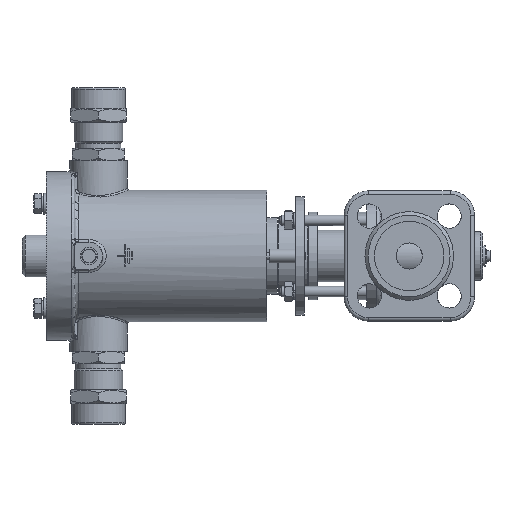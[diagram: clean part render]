
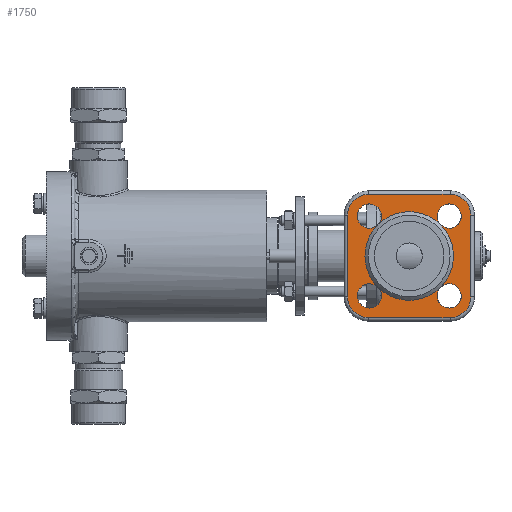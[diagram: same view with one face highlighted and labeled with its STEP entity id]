
A CAD part, left-side view. The second image highlights one B-rep face of the part: STEP entity #1750.
In plain terms, the highlighted planar face has unit normal (-1, 0, 0).
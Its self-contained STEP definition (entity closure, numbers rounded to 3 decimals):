
#1750=ADVANCED_FACE('',(#19510,#19512,#19514,#19516,#19518,#19520),#19522,.T.);
#19510=FACE_BOUND('',#19511,.T.);
#19511=EDGE_LOOP('',(#30343));
#19512=FACE_BOUND('',#19513,.T.);
#19513=EDGE_LOOP('',(#30344));
#19514=FACE_BOUND('',#19515,.T.);
#19515=EDGE_LOOP('',(#30345));
#19516=FACE_BOUND('',#19517,.T.);
#19517=EDGE_LOOP('',(#30346));
#19518=FACE_BOUND('',#19519,.T.);
#19519=EDGE_LOOP('',(#30347));
#19520=FACE_OUTER_BOUND('',#19521,.T.);
#19521=EDGE_LOOP('',(#30348,#30349,#30350,#30351,#30352,#30353,#30354,#30355));
#19522=PLANE('',#19523);
#19523=AXIS2_PLACEMENT_3D('',#19524,#19525,#19526);
#19524=CARTESIAN_POINT('',(-64.,0.,0.));
#19525=DIRECTION('',(-1.,-0.,-0.));
#19526=DIRECTION('',(0.,1.,0.));
#30343=ORIENTED_EDGE('',*,*,#39169,.T.);
#30344=ORIENTED_EDGE('',*,*,#39171,.T.);
#30345=ORIENTED_EDGE('',*,*,#39165,.T.);
#30346=ORIENTED_EDGE('',*,*,#39222,.T.);
#30347=ORIENTED_EDGE('',*,*,#39167,.T.);
#30348=ORIENTED_EDGE('',*,*,#39223,.T.);
#30349=ORIENTED_EDGE('',*,*,#39224,.T.);
#30350=ORIENTED_EDGE('',*,*,#39225,.T.);
#30351=ORIENTED_EDGE('',*,*,#39226,.T.);
#30352=ORIENTED_EDGE('',*,*,#39227,.T.);
#30353=ORIENTED_EDGE('',*,*,#39228,.T.);
#30354=ORIENTED_EDGE('',*,*,#39229,.T.);
#30355=ORIENTED_EDGE('',*,*,#39230,.T.);
#39165=EDGE_CURVE('',#46882,#46882,#46884,.F.);
#39167=EDGE_CURVE('',#46885,#46885,#46887,.F.);
#39169=EDGE_CURVE('',#46888,#46888,#46890,.F.);
#39171=EDGE_CURVE('',#46891,#46891,#46893,.F.);
#39222=EDGE_CURVE('',#46967,#46967,#46968,.T.);
#39223=EDGE_CURVE('',#46969,#46970,#46971,.T.);
#39224=EDGE_CURVE('',#46970,#46972,#46973,.T.);
#39225=EDGE_CURVE('',#46972,#46974,#46975,.T.);
#39226=EDGE_CURVE('',#46974,#46976,#46977,.T.);
#39227=EDGE_CURVE('',#46976,#46978,#46979,.T.);
#39228=EDGE_CURVE('',#46978,#46980,#46981,.T.);
#39229=EDGE_CURVE('',#46980,#46982,#46983,.T.);
#39230=EDGE_CURVE('',#46982,#46969,#46984,.T.);
#46882=VERTEX_POINT('',#73843);
#46884=CIRCLE('',#73847,7.);
#46885=VERTEX_POINT('',#73851);
#46887=CIRCLE('',#73855,7.);
#46888=VERTEX_POINT('',#73859);
#46890=CIRCLE('',#73863,7.);
#46891=VERTEX_POINT('',#73867);
#46893=CIRCLE('',#73871,7.);
#46967=VERTEX_POINT('',#74071);
#46968=CIRCLE('',#74072,25.5);
#46969=VERTEX_POINT('',#74076);
#46970=VERTEX_POINT('',#74077);
#46971=LINE('',#74078,#74079);
#46972=VERTEX_POINT('',#74081);
#46973=CIRCLE('',#74082,12.);
#46974=VERTEX_POINT('',#74086);
#46975=LINE('',#74087,#74088);
#46976=VERTEX_POINT('',#74090);
#46977=CIRCLE('',#74091,12.);
#46978=VERTEX_POINT('',#74095);
#46979=LINE('',#74096,#74097);
#46980=VERTEX_POINT('',#74099);
#46981=CIRCLE('',#74100,12.);
#46982=VERTEX_POINT('',#74104);
#46983=LINE('',#74105,#74106);
#46984=CIRCLE('',#74108,12.);
#73843=CARTESIAN_POINT('',(-64.,-22.981,-29.981));
#73847=AXIS2_PLACEMENT_3D('',#73848,#73849,#73850);
#73848=CARTESIAN_POINT('',(-64.,-22.981,-22.981));
#73849=DIRECTION('',(-1.,-0.,-0.));
#73850=DIRECTION('',(0.,0.,-1.));
#73851=CARTESIAN_POINT('',(-64.,-22.981,15.981));
#73855=AXIS2_PLACEMENT_3D('',#73856,#73857,#73858);
#73856=CARTESIAN_POINT('',(-64.,-22.981,22.981));
#73857=DIRECTION('',(-1.,-0.,-0.));
#73858=DIRECTION('',(0.,0.,-1.));
#73859=CARTESIAN_POINT('',(-64.,22.981,15.981));
#73863=AXIS2_PLACEMENT_3D('',#73864,#73865,#73866);
#73864=CARTESIAN_POINT('',(-64.,22.981,22.981));
#73865=DIRECTION('',(-1.,-0.,-0.));
#73866=DIRECTION('',(0.,0.,-1.));
#73867=CARTESIAN_POINT('',(-64.,22.981,-29.981));
#73871=AXIS2_PLACEMENT_3D('',#73872,#73873,#73874);
#73872=CARTESIAN_POINT('',(-64.,22.981,-22.981));
#73873=DIRECTION('',(-1.,-0.,-0.));
#73874=DIRECTION('',(0.,0.,-1.));
#74071=CARTESIAN_POINT('',(-64.,25.5,0.));
#74072=AXIS2_PLACEMENT_3D('',#74073,#74074,#74075);
#74073=CARTESIAN_POINT('',(-64.,0.,0.));
#74074=DIRECTION('',(1.,0.,0.));
#74075=DIRECTION('',(0.,1.,0.));
#74076=CARTESIAN_POINT('',(-64.,23.5,-35.5));
#74077=CARTESIAN_POINT('',(-64.,-23.5,-35.5));
#74078=CARTESIAN_POINT('',(-64.,23.5,-35.5));
#74079=VECTOR('',#74080,1.);
#74080=DIRECTION('',(0.,-1.,0.));
#74081=CARTESIAN_POINT('',(-64.,-35.5,-23.5));
#74082=AXIS2_PLACEMENT_3D('',#74083,#74084,#74085);
#74083=CARTESIAN_POINT('',(-64.,-23.5,-23.5));
#74084=DIRECTION('',(-1.,0.,-0.));
#74085=DIRECTION('',(0.,0.,-1.));
#74086=CARTESIAN_POINT('',(-64.,-35.5,23.5));
#74087=CARTESIAN_POINT('',(-64.,-35.5,-23.5));
#74088=VECTOR('',#74089,1.);
#74089=DIRECTION('',(0.,0.,1.));
#74090=CARTESIAN_POINT('',(-64.,-23.5,35.5));
#74091=AXIS2_PLACEMENT_3D('',#74092,#74093,#74094);
#74092=CARTESIAN_POINT('',(-64.,-23.5,23.5));
#74093=DIRECTION('',(-1.,-0.,0.));
#74094=DIRECTION('',(0.,-1.,0.));
#74095=CARTESIAN_POINT('',(-64.,23.5,35.5));
#74096=CARTESIAN_POINT('',(-64.,-23.5,35.5));
#74097=VECTOR('',#74098,1.);
#74098=DIRECTION('',(0.,1.,0.));
#74099=CARTESIAN_POINT('',(-64.,35.5,23.5));
#74100=AXIS2_PLACEMENT_3D('',#74101,#74102,#74103);
#74101=CARTESIAN_POINT('',(-64.,23.5,23.5));
#74102=DIRECTION('',(-1.,0.,0.));
#74103=DIRECTION('',(0.,0.,1.));
#74104=CARTESIAN_POINT('',(-64.,35.5,-23.5));
#74105=CARTESIAN_POINT('',(-64.,35.5,23.5));
#74106=VECTOR('',#74107,1.);
#74107=DIRECTION('',(0.,0.,-1.));
#74108=AXIS2_PLACEMENT_3D('',#74109,#74110,#74111);
#74109=CARTESIAN_POINT('',(-64.,23.5,-23.5));
#74110=DIRECTION('',(-1.,0.,0.));
#74111=DIRECTION('',(0.,1.,0.));
